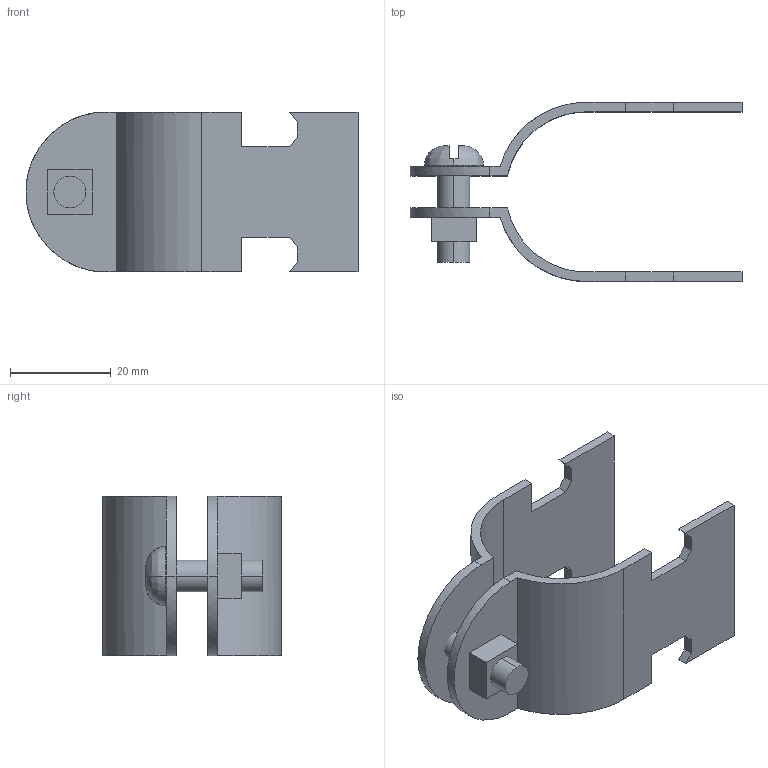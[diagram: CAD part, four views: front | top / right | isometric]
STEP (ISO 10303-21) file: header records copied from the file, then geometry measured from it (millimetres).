
FILE_DESCRIPTION(('TurboCAD Mac Pro'),'Build 980');
FILE_NAME('P2032.stp',' ',(''),(''),'ACIS Interop','IMSI','TurboCAD Mac Pro BY IMSI, INCORPORATED');
FILE_SCHEMA(('automotive_design'));
Length unit declared in the file: inch
Products named in the file (5): 1; 2; 3; 4; 5
Bounding box: 65.9 x 35.54 x 31.74 mm (x, y, z)
Volume: 8835.5 mm3; surface area: 10031.3 mm2
Topology: 4 solids, 4 shells, 75 faces, 194 edges, 128 vertices
Faces by surface type: plane 51, bspline 24
Entity records: 3647 total; most frequent: CARTESIAN_POINT 1154, ORIENTED_EDGE 388, DIRECTION 262, EDGE_CURVE 194, LINE 142, VECTOR 142, VERTEX_POINT 128, STYLED_ITEM 91
